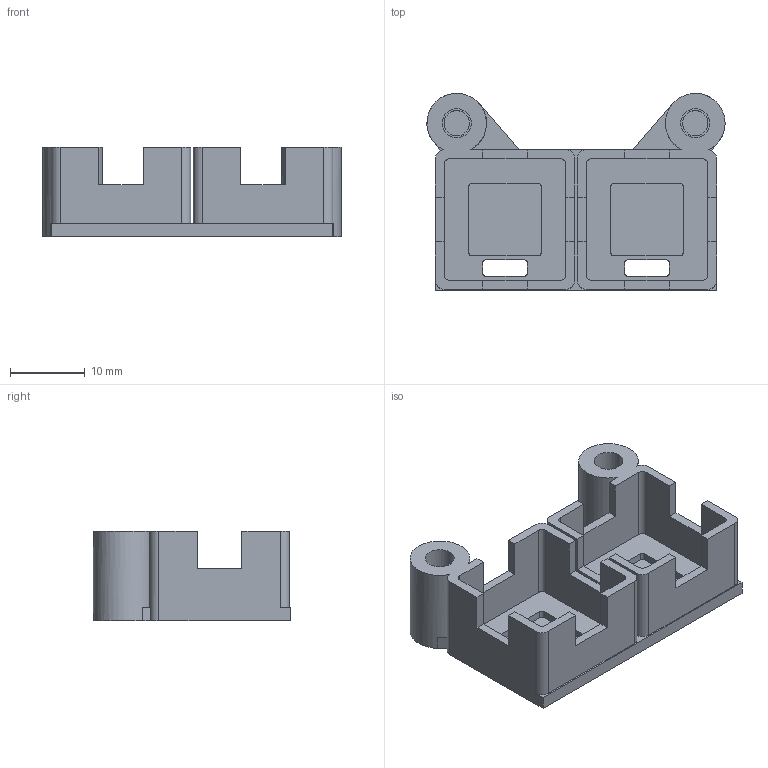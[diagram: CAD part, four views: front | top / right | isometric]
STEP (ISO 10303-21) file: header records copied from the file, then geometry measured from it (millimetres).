
FILE_DESCRIPTION(('Open CASCADE Model'),'2;1');
FILE_NAME('Open CASCADE Shape Model','2026-09-14T21:26:11',('Author'),( 'Open CASCADE'),'Open CASCADE STEP processor 7.9','Open CASCADE 7.9' ,'Unknown');
FILE_SCHEMA(('AUTOMOTIVE_DESIGN { 1 0 10303 214 1 1 1 1 }'));
Length unit declared in the file: millimetre
Products named in the file (1): Open CASCADE STEP translator 7.9 2
Bounding box: 40 x 26.45 x 12 mm (x, y, z)
Volume: 3552.9 mm3; surface area: 4911.1 mm2
Topology: 1 solids, 1 shells, 121 faces, 339 edges, 226 vertices
Faces by surface type: plane 82, cylinder 39
Full cylindrical faces by diameter (mm): 3.4 x2, 3.9 x2
Entity records: 8175 total; most frequent: CARTESIAN_POINT 1710, DIRECTION 1110, ORIENTED_EDGE 678, PCURVE 678, DEFINITIONAL_REPRESENTATION 678, LINE 637, VECTOR 637, EDGE_CURVE 339
